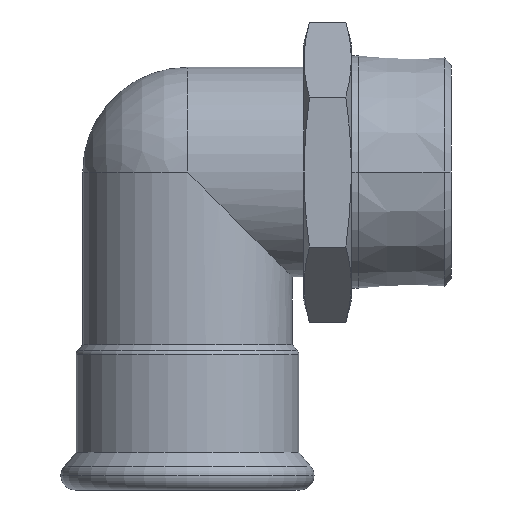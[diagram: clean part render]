
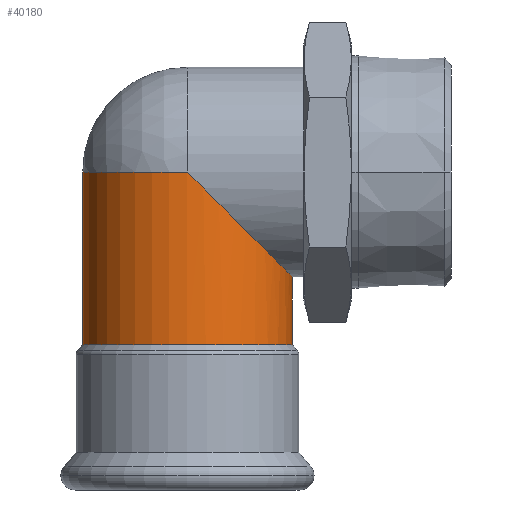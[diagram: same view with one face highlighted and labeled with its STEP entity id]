
A CAD part, front view. The second image highlights one B-rep face of the part: STEP entity #40180.
In plain terms, the highlighted cylindrical face has radius 27 mm (diameter 54 mm), a partial arc.
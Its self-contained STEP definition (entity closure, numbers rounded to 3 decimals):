
#100=CARTESIAN_POINT('',(57.344,193.695,0.));
#110=VERTEX_POINT('',#100);
#290=CARTESIAN_POINT('',(3.344,193.695,
0.));
#300=VERTEX_POINT('',#290);
#330=CARTESIAN_POINT('',(30.344,193.695,0.));
#340=DIRECTION('',(0.,1.,0.));
#350=DIRECTION('',(1.,0.,0.));
#360=AXIS2_PLACEMENT_3D('',#330,#340,#350);
#370=CIRCLE('',#360,27.);
#380=EDGE_CURVE('',#110,#300,#370,.T.);
#13900=CARTESIAN_POINT('',(30.344,193.695,0.));
#13910=DIRECTION('',(0.,1.,0.));
#13920=DIRECTION('',(-1.,0.,0.));
#13930=AXIS2_PLACEMENT_3D('',#13900,#13910,#13920);
#13940=CYLINDRICAL_SURFACE('',#13930,27.);
#13950=CARTESIAN_POINT('',(3.344,193.695,0.));
#13960=DIRECTION('',(0.,1.,0.));
#13970=VECTOR('',#13960,1.);
#13980=LINE('',#13950,#13970);
#13990=CARTESIAN_POINT('',(3.344,149.195,0.));
#14000=VERTEX_POINT('',#13990);
#14010=EDGE_CURVE('',#14000,#300,#13980,.T.);
#14050=CARTESIAN_POINT('',(57.344,193.695,
0.));
#14060=DIRECTION('',(0.,1.,0.));
#14070=VECTOR('',#14060,1.);
#14080=LINE('',#14050,#14070);
#14090=CARTESIAN_POINT('',(57.344,176.195,
0.));
#14100=VERTEX_POINT('',#14090);
#14110=EDGE_CURVE('',#14100,#110,#14080,.T.);
#14130=CARTESIAN_POINT('',(30.344,149.195,
0.));
#14140=DIRECTION('',(-0.707,0.707,0.));
#14150=DIRECTION('',(0.707,0.707,0.));
#14160=AXIS2_PLACEMENT_3D('',#14130,#14140,#14150);
#14170=ELLIPSE('',#14160,38.184,27.);
#14220=CARTESIAN_POINT('',(30.344,149.195,0.));
#14230=DIRECTION('',(0.,-1.,0.));
#14240=DIRECTION('',(-1.,0.,0.));
#14250=AXIS2_PLACEMENT_3D('',#14220,#14230,#14240);
#14260=CIRCLE('',#14250,27.);
#40070=ORIENTED_EDGE('',*,*,#14010,.T.);
#40080=CARTESIAN_POINT('',(30.344,149.195,-27.));
#40090=VERTEX_POINT('',#40080);
#40100=EDGE_CURVE('',#14000,#40090,#14260,.T.);
#40110=ORIENTED_EDGE('',*,*,#40100,.F.);
#40120=EDGE_CURVE('',#14100,#40090,#14170,.T.);
#40130=ORIENTED_EDGE('',*,*,#40120,.T.);
#40140=ORIENTED_EDGE('',*,*,#14110,.F.);
#40150=ORIENTED_EDGE('',*,*,#380,.F.);
#40160=EDGE_LOOP('',(#40150,#40140,#40130,#40110,#40070));
#40170=FACE_OUTER_BOUND('',#40160,.T.);
#40180=ADVANCED_FACE('',(#40170),#13940,.T.);
